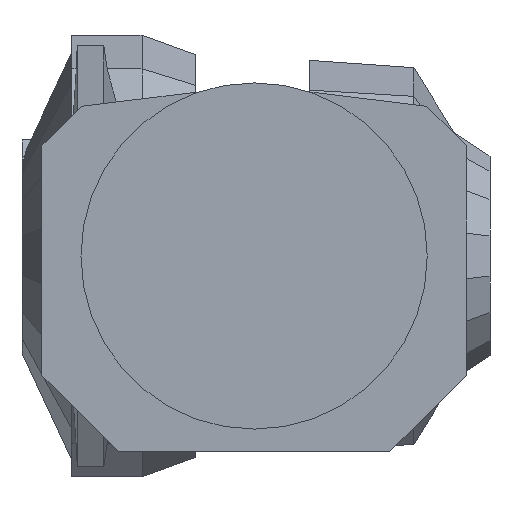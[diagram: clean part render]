
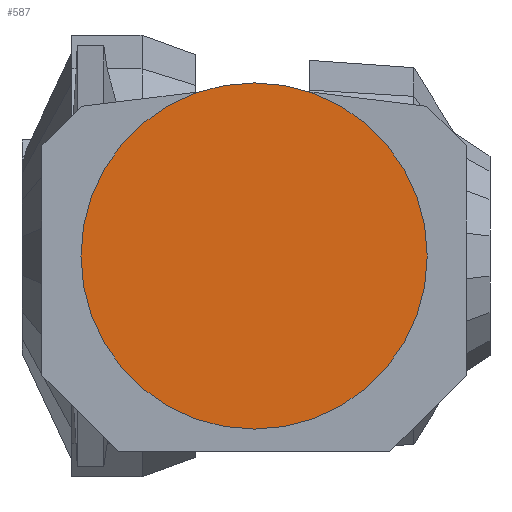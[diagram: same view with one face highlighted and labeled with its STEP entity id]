
A CAD part, left-side view. The second image highlights one B-rep face of the part: STEP entity #587.
In plain terms, the highlighted planar face has unit normal (-1, 0, 0).
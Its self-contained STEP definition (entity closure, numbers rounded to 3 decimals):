
#6 = ORIENTED_EDGE ( 'NONE', *, *, #1046, .F. ) ;
#132 = ORIENTED_EDGE ( 'NONE', *, *, #930, .F. ) ;
#260 = EDGE_LOOP ( 'NONE', ( #6, #132 ) ) ;
#366 = VERTEX_POINT ( 'NONE', #2391 ) ;
#587 = ADVANCED_FACE ( 'NONE', ( #3976 ), #3977, .F. ) ;
#759 = VERTEX_POINT ( 'NONE', #4987 ) ;
#930 = EDGE_CURVE ( 'NONE', #366, #759, #5642, .T. ) ;
#1046 = EDGE_CURVE ( 'NONE', #759, #366, #3988, .T. ) ;
#2391 = CARTESIAN_POINT ( 'NONE',  ( 448.6, 0., 1811. ) ) ;
#3976 = FACE_OUTER_BOUND ( 'NONE', #260, .T. ) ;
#3977 = PLANE ( 'NONE',  #3978 ) ;
#3978 = AXIS2_PLACEMENT_3D ( 'NONE', #3979, #3982, #3983 ) ;
#3979 = CARTESIAN_POINT ( 'NONE',  ( 448.6, 0., 1811. ) ) ;
#3982 = DIRECTION ( 'NONE',  ( 1., 0., 0. ) ) ;
#3983 = DIRECTION ( 'NONE',  ( 0., 0., -1. ) ) ;
#3988 = CIRCLE ( 'NONE', #3989, 91. ) ;
#3989 = AXIS2_PLACEMENT_3D ( 'NONE', #3990, #3991, #3992 ) ;
#3990 = CARTESIAN_POINT ( 'NONE',  ( 448.6, 0., 1720. ) ) ;
#3991 = DIRECTION ( 'NONE',  ( 1., 0., 0. ) ) ;
#3992 = DIRECTION ( 'NONE',  ( 0., 0., -1. ) ) ;
#4987 = CARTESIAN_POINT ( 'NONE',  ( 448.6, 0., 1629. ) ) ;
#5642 = CIRCLE ( 'NONE', #5643, 91. ) ;
#5643 = AXIS2_PLACEMENT_3D ( 'NONE', #5644, #5645, #5648 ) ;
#5644 = CARTESIAN_POINT ( 'NONE',  ( 448.6, 0., 1720. ) ) ;
#5645 = DIRECTION ( 'NONE',  ( 1., 0., 0. ) ) ;
#5648 = DIRECTION ( 'NONE',  ( 0., 0., -1. ) ) ;
